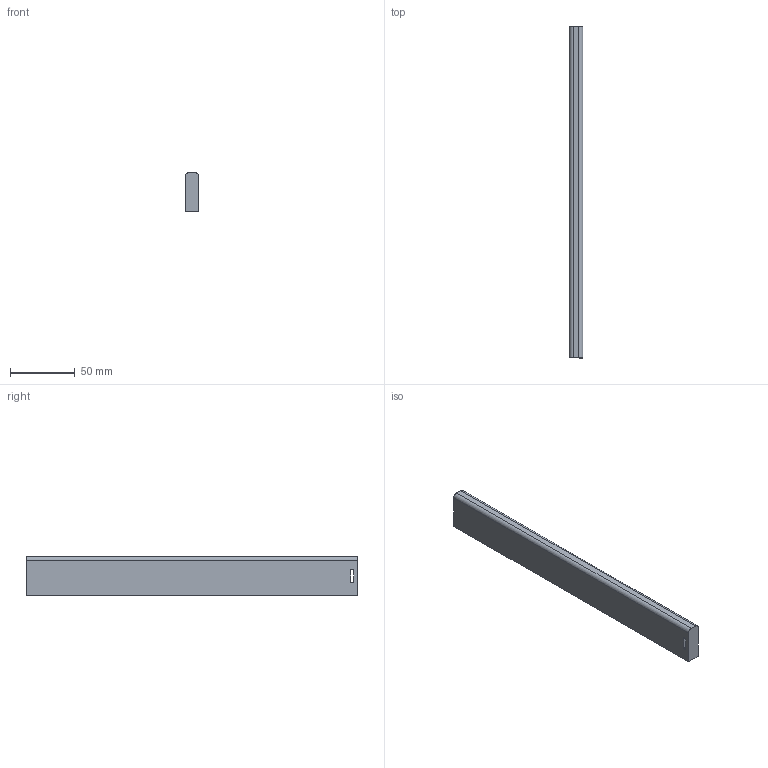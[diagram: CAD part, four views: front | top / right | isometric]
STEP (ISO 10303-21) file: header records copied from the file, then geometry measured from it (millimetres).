
FILE_DESCRIPTION (( 'STEP AP214' ), '1' );
FILE_NAME ('_Seitenreling_S760605500_RL255,5.step', '2010-09-06T14:51:24', ( 'grass' ), ( '' ), 'SwSTEP 2.0', 'SolidWorks 2010', '' );
FILE_SCHEMA (( 'AUTOMOTIVE_DESIGN' ));
Length unit declared in the file: millimetre
Products named in the file (1): _Seitenreling_S760605500_RL255,5
Bounding box: 10.5 x 255.5 x 30 mm (x, y, z)
Volume: 79256.8 mm3; surface area: 20872 mm2
Topology: 1 solids, 1 shells, 12 faces, 30 edges, 20 vertices
Faces by surface type: plane 8, cylinder 4
Entity records: 400 total; most frequent: DIRECTION 64, CARTESIAN_POINT 63, ORIENTED_EDGE 60, EDGE_CURVE 30, LINE 22, VECTOR 22, AXIS2_PLACEMENT_3D 21, VERTEX_POINT 20
